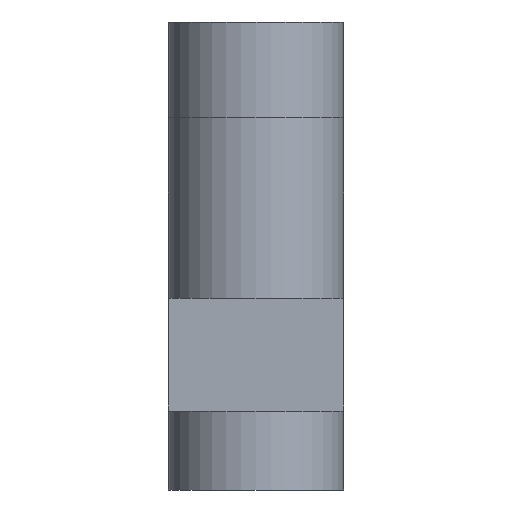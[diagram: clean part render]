
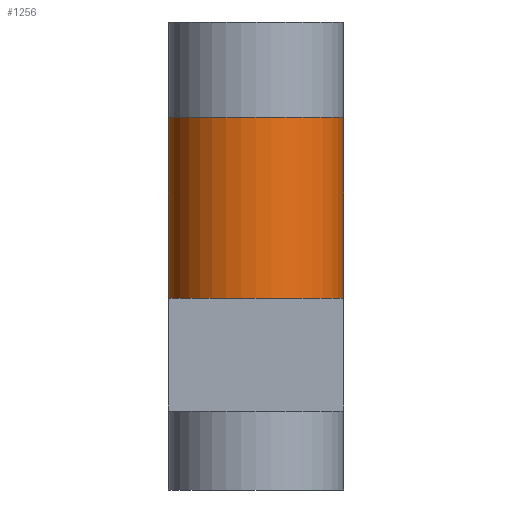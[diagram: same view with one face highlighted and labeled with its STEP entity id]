
A CAD part, front view. The second image highlights one B-rep face of the part: STEP entity #1256.
In plain terms, the highlighted cylindrical face has radius 6 mm (diameter 12 mm), a partial arc.
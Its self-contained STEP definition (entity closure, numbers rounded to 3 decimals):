
#259 = VERTEX_POINT('',#260);
#260 = CARTESIAN_POINT('',(0.,0.,0.35));
#261 = VERTEX_POINT('',#262);
#262 = CARTESIAN_POINT('',(12.,0.,0.35));
#270 = CYLINDRICAL_SURFACE('',#271,6.);
#271 = AXIS2_PLACEMENT_3D('',#272,#273,#274);
#272 = CARTESIAN_POINT('',(6.,0.,-12.75));
#273 = DIRECTION('',(0.,0.,1.));
#274 = DIRECTION('',(1.,0.,-0.));
#282 = PLANE('',#283);
#283 = AXIS2_PLACEMENT_3D('',#284,#285,#286);
#284 = CARTESIAN_POINT('',(0.,0.,0.35));
#285 = DIRECTION('',(0.,0.,-1.));
#286 = DIRECTION('',(-1.,0.,-0.));
#294 = EDGE_CURVE('',#259,#295,#297,.T.);
#295 = VERTEX_POINT('',#296);
#296 = CARTESIAN_POINT('',(0.,0.,7.35));
#297 = SURFACE_CURVE('',#298,(#302,#309),.PCURVE_S1.);
#298 = LINE('',#299,#300);
#299 = CARTESIAN_POINT('',(0.,0.,-12.75));
#300 = VECTOR('',#301,1.);
#301 = DIRECTION('',(0.,0.,1.));
#302 = PCURVE('',#270,#303);
#303 = DEFINITIONAL_REPRESENTATION('',(#304),#308);
#304 = LINE('',#305,#306);
#305 = CARTESIAN_POINT('',(3.142,0.));
#306 = VECTOR('',#307,1.);
#307 = DIRECTION('',(0.,1.));
#308 = ( GEOMETRIC_REPRESENTATION_CONTEXT(2) 
PARAMETRIC_REPRESENTATION_CONTEXT() REPRESENTATION_CONTEXT('2D SPACE',''
  ) );
#309 = PCURVE('',#310,#315);
#310 = CYLINDRICAL_SURFACE('',#311,6.);
#311 = AXIS2_PLACEMENT_3D('',#312,#313,#314);
#312 = CARTESIAN_POINT('',(6.,0.,-12.75));
#313 = DIRECTION('',(0.,0.,1.));
#314 = DIRECTION('',(1.,0.,-0.));
#315 = DEFINITIONAL_REPRESENTATION('',(#316),#320);
#316 = LINE('',#317,#318);
#317 = CARTESIAN_POINT('',(3.142,0.));
#318 = VECTOR('',#319,1.);
#319 = DIRECTION('',(0.,1.));
#320 = ( GEOMETRIC_REPRESENTATION_CONTEXT(2) 
PARAMETRIC_REPRESENTATION_CONTEXT() REPRESENTATION_CONTEXT('2D SPACE',''
  ) );
#323 = VERTEX_POINT('',#324);
#324 = CARTESIAN_POINT('',(12.,0.,7.35));
#355 = EDGE_CURVE('',#261,#323,#356,.T.);
#356 = SURFACE_CURVE('',#357,(#361,#368),.PCURVE_S1.);
#357 = LINE('',#358,#359);
#358 = CARTESIAN_POINT('',(12.,0.,-12.75));
#359 = VECTOR('',#360,1.);
#360 = DIRECTION('',(0.,0.,1.));
#361 = PCURVE('',#270,#362);
#362 = DEFINITIONAL_REPRESENTATION('',(#363),#367);
#363 = LINE('',#364,#365);
#364 = CARTESIAN_POINT('',(0.,0.));
#365 = VECTOR('',#366,1.);
#366 = DIRECTION('',(0.,1.));
#367 = ( GEOMETRIC_REPRESENTATION_CONTEXT(2) 
PARAMETRIC_REPRESENTATION_CONTEXT() REPRESENTATION_CONTEXT('2D SPACE',''
  ) );
#368 = PCURVE('',#310,#369);
#369 = DEFINITIONAL_REPRESENTATION('',(#370),#374);
#370 = LINE('',#371,#372);
#371 = CARTESIAN_POINT('',(6.283,0.));
#372 = VECTOR('',#373,1.);
#373 = DIRECTION('',(0.,1.));
#374 = ( GEOMETRIC_REPRESENTATION_CONTEXT(2) 
PARAMETRIC_REPRESENTATION_CONTEXT() REPRESENTATION_CONTEXT('2D SPACE',''
  ) );
#402 = PLANE('',#403);
#403 = AXIS2_PLACEMENT_3D('',#404,#405,#406);
#404 = CARTESIAN_POINT('',(0.,0.,-12.75));
#405 = DIRECTION('',(-1.,0.,0.));
#406 = DIRECTION('',(0.,-1.,0.));
#882 = PLANE('',#883);
#883 = AXIS2_PLACEMENT_3D('',#884,#885,#886);
#884 = CARTESIAN_POINT('',(6.,0.,12.75));
#885 = DIRECTION('',(-0.,0.,-1.));
#886 = DIRECTION('',(-1.,0.,0.));
#1256 = ADVANCED_FACE('',(#1257),#310,.T.);
#1257 = FACE_BOUND('',#1258,.T.);
#1258 = EDGE_LOOP('',(#1259,#1260,#1282,#1283,#1311,#1339));
#1259 = ORIENTED_EDGE('',*,*,#294,.F.);
#1260 = ORIENTED_EDGE('',*,*,#1261,.F.);
#1261 = EDGE_CURVE('',#261,#259,#1262,.T.);
#1262 = SURFACE_CURVE('',#1263,(#1268,#1275),.PCURVE_S1.);
#1263 = CIRCLE('',#1264,6.);
#1264 = AXIS2_PLACEMENT_3D('',#1265,#1266,#1267);
#1265 = CARTESIAN_POINT('',(6.,0.,0.35));
#1266 = DIRECTION('',(0.,0.,-1.));
#1267 = DIRECTION('',(-1.,0.,0.));
#1268 = PCURVE('',#310,#1269);
#1269 = DEFINITIONAL_REPRESENTATION('',(#1270),#1274);
#1270 = LINE('',#1271,#1272);
#1271 = CARTESIAN_POINT('',(9.425,13.1));
#1272 = VECTOR('',#1273,1.);
#1273 = DIRECTION('',(-1.,0.));
#1274 = ( GEOMETRIC_REPRESENTATION_CONTEXT(2) 
PARAMETRIC_REPRESENTATION_CONTEXT() REPRESENTATION_CONTEXT('2D SPACE',''
  ) );
#1275 = PCURVE('',#282,#1276);
#1276 = DEFINITIONAL_REPRESENTATION('',(#1277),#1281);
#1277 = CIRCLE('',#1278,6.);
#1278 = AXIS2_PLACEMENT_2D('',#1279,#1280);
#1279 = CARTESIAN_POINT('',(-6.,0.));
#1280 = DIRECTION('',(1.,0.));
#1281 = ( GEOMETRIC_REPRESENTATION_CONTEXT(2) 
PARAMETRIC_REPRESENTATION_CONTEXT() REPRESENTATION_CONTEXT('2D SPACE',''
  ) );
#1282 = ORIENTED_EDGE('',*,*,#355,.T.);
#1283 = ORIENTED_EDGE('',*,*,#1284,.T.);
#1284 = EDGE_CURVE('',#323,#1285,#1287,.T.);
#1285 = VERTEX_POINT('',#1286);
#1286 = CARTESIAN_POINT('',(12.,0.,12.75));
#1287 = SURFACE_CURVE('',#1288,(#1292,#1299),.PCURVE_S1.);
#1288 = LINE('',#1289,#1290);
#1289 = CARTESIAN_POINT('',(12.,0.,-12.75));
#1290 = VECTOR('',#1291,1.);
#1291 = DIRECTION('',(0.,0.,1.));
#1292 = PCURVE('',#310,#1293);
#1293 = DEFINITIONAL_REPRESENTATION('',(#1294),#1298);
#1294 = LINE('',#1295,#1296);
#1295 = CARTESIAN_POINT('',(6.283,0.));
#1296 = VECTOR('',#1297,1.);
#1297 = DIRECTION('',(0.,1.));
#1298 = ( GEOMETRIC_REPRESENTATION_CONTEXT(2) 
PARAMETRIC_REPRESENTATION_CONTEXT() REPRESENTATION_CONTEXT('2D SPACE',''
  ) );
#1299 = PCURVE('',#1300,#1305);
#1300 = PLANE('',#1301);
#1301 = AXIS2_PLACEMENT_3D('',#1302,#1303,#1304);
#1302 = CARTESIAN_POINT('',(12.,0.,-12.75));
#1303 = DIRECTION('',(1.,0.,-0.));
#1304 = DIRECTION('',(0.,1.,0.));
#1305 = DEFINITIONAL_REPRESENTATION('',(#1306),#1310);
#1306 = LINE('',#1307,#1308);
#1307 = CARTESIAN_POINT('',(0.,0.));
#1308 = VECTOR('',#1309,1.);
#1309 = DIRECTION('',(0.,1.));
#1310 = ( GEOMETRIC_REPRESENTATION_CONTEXT(2) 
PARAMETRIC_REPRESENTATION_CONTEXT() REPRESENTATION_CONTEXT('2D SPACE',''
  ) );
#1311 = ORIENTED_EDGE('',*,*,#1312,.F.);
#1312 = EDGE_CURVE('',#1313,#1285,#1315,.T.);
#1313 = VERTEX_POINT('',#1314);
#1314 = CARTESIAN_POINT('',(0.,0.,12.75));
#1315 = SURFACE_CURVE('',#1316,(#1321,#1328),.PCURVE_S1.);
#1316 = CIRCLE('',#1317,6.);
#1317 = AXIS2_PLACEMENT_3D('',#1318,#1319,#1320);
#1318 = CARTESIAN_POINT('',(6.,0.,12.75));
#1319 = DIRECTION('',(0.,0.,1.));
#1320 = DIRECTION('',(-1.,0.,0.));
#1321 = PCURVE('',#310,#1322);
#1322 = DEFINITIONAL_REPRESENTATION('',(#1323),#1327);
#1323 = LINE('',#1324,#1325);
#1324 = CARTESIAN_POINT('',(3.142,25.5));
#1325 = VECTOR('',#1326,1.);
#1326 = DIRECTION('',(1.,0.));
#1327 = ( GEOMETRIC_REPRESENTATION_CONTEXT(2) 
PARAMETRIC_REPRESENTATION_CONTEXT() REPRESENTATION_CONTEXT('2D SPACE',''
  ) );
#1328 = PCURVE('',#882,#1329);
#1329 = DEFINITIONAL_REPRESENTATION('',(#1330),#1338);
#1330 = ( BOUNDED_CURVE() B_SPLINE_CURVE(2,(#1331,#1332,#1333,#1334,
#1335,#1336,#1337),.UNSPECIFIED.,.T.,.F.) B_SPLINE_CURVE_WITH_KNOTS((1,2
    ,2,2,2,1),(-2.094,0.,2.094,4.189,
6.283,8.378),.UNSPECIFIED.) CURVE() 
GEOMETRIC_REPRESENTATION_ITEM() RATIONAL_B_SPLINE_CURVE((1.,0.5,1.,0.5,
1.,0.5,1.)) REPRESENTATION_ITEM('') );
#1331 = CARTESIAN_POINT('',(6.,0.));
#1332 = CARTESIAN_POINT('',(6.,-10.392));
#1333 = CARTESIAN_POINT('',(-3.,-5.196));
#1334 = CARTESIAN_POINT('',(-12.,0.));
#1335 = CARTESIAN_POINT('',(-3.,5.196));
#1336 = CARTESIAN_POINT('',(6.,10.392));
#1337 = CARTESIAN_POINT('',(6.,0.));
#1338 = ( GEOMETRIC_REPRESENTATION_CONTEXT(2) 
PARAMETRIC_REPRESENTATION_CONTEXT() REPRESENTATION_CONTEXT('2D SPACE',''
  ) );
#1339 = ORIENTED_EDGE('',*,*,#1340,.F.);
#1340 = EDGE_CURVE('',#295,#1313,#1341,.T.);
#1341 = SURFACE_CURVE('',#1342,(#1346,#1353),.PCURVE_S1.);
#1342 = LINE('',#1343,#1344);
#1343 = CARTESIAN_POINT('',(0.,0.,-12.75));
#1344 = VECTOR('',#1345,1.);
#1345 = DIRECTION('',(0.,0.,1.));
#1346 = PCURVE('',#310,#1347);
#1347 = DEFINITIONAL_REPRESENTATION('',(#1348),#1352);
#1348 = LINE('',#1349,#1350);
#1349 = CARTESIAN_POINT('',(3.142,0.));
#1350 = VECTOR('',#1351,1.);
#1351 = DIRECTION('',(0.,1.));
#1352 = ( GEOMETRIC_REPRESENTATION_CONTEXT(2) 
PARAMETRIC_REPRESENTATION_CONTEXT() REPRESENTATION_CONTEXT('2D SPACE',''
  ) );
#1353 = PCURVE('',#402,#1354);
#1354 = DEFINITIONAL_REPRESENTATION('',(#1355),#1359);
#1355 = LINE('',#1356,#1357);
#1356 = CARTESIAN_POINT('',(0.,0.));
#1357 = VECTOR('',#1358,1.);
#1358 = DIRECTION('',(0.,1.));
#1359 = ( GEOMETRIC_REPRESENTATION_CONTEXT(2) 
PARAMETRIC_REPRESENTATION_CONTEXT() REPRESENTATION_CONTEXT('2D SPACE',''
  ) );
